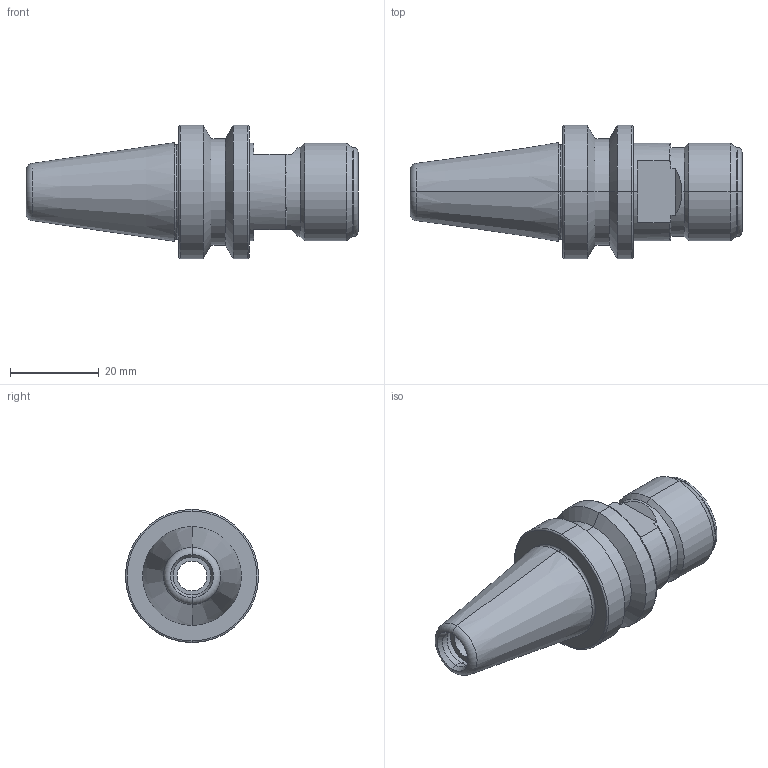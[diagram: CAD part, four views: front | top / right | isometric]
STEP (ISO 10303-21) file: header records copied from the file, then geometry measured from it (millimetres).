
FILE_DESCRIPTION (( 'STEP AP214' ), '1' );
FILE_NAME ('04-0806.STEP', '2022-04-12T20:10:31', ( '' ), ( '' ), 'SwSTEP 2.0', 'SolidWorks 2021', '' );
FILE_SCHEMA (( 'AUTOMOTIVE_DESIGN' ));
Length unit declared in the file: millimetre
Products named in the file (1): 04-0806
Bounding box: 74.8 x 30 x 30 mm (x, y, z)
Volume: 20735.3 mm3; surface area: 8643.6 mm2
Topology: 1 solids, 1 shells, 73 faces, 158 edges, 94 vertices
Faces by surface type: cylinder 24, plane 17, torus 16, cone 16
Entity records: 2054 total; most frequent: DIRECTION 392, CARTESIAN_POINT 368, ORIENTED_EDGE 316, AXIS2_PLACEMENT_3D 168, EDGE_CURVE 158, CIRCLE 94, VERTEX_POINT 94, EDGE_LOOP 82
